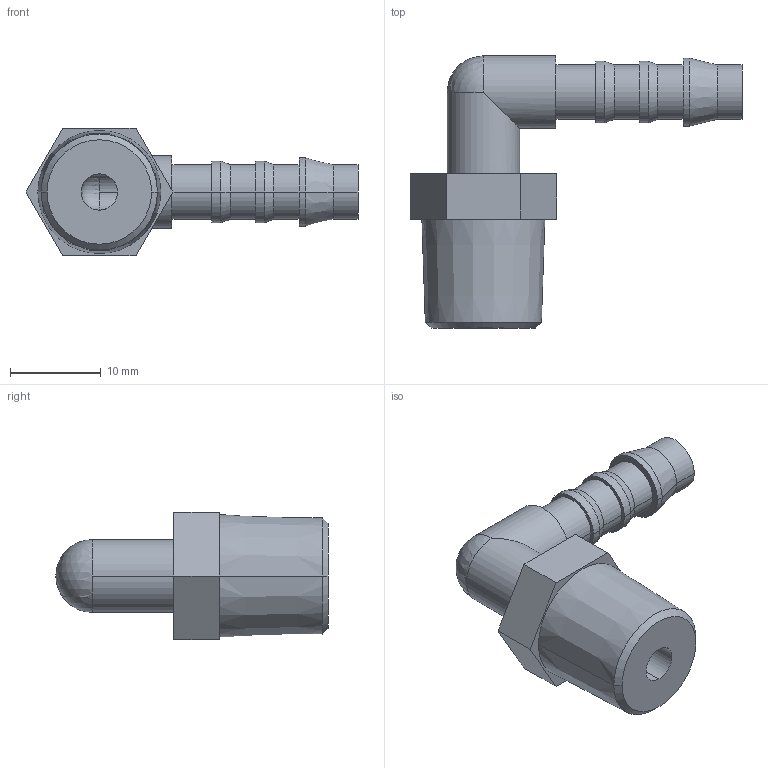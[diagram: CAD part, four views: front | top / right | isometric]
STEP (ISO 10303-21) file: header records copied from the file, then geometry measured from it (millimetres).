
FILE_DESCRIPTION((''),'2;1');
FILE_NAME('1823379007','2025-02-11T17:11:59',('GND7HC'),(''),'CREO PARAMETRIC BY PTC INC, 2023092','CREO PARAMETRIC BY PTC INC, 2023092','');
FILE_SCHEMA(('CONFIG_CONTROL_DESIGN','SHAPE_APPEARANCE_LAYERS_GROUPS'));
Length unit declared in the file: millimetre
Products named in the file (1): 1823379007
Bounding box: 36.58 x 30 x 14 mm (x, y, z)
Volume: 3264.2 mm3; surface area: 2558.3 mm2
Topology: 1 solids, 1 shells, 48 faces, 107 edges, 63 vertices
Faces by surface type: cylinder 22, plane 14, cone 10, sphere 2
Entity records: 1792 total; most frequent: CARTESIAN_POINT 290, DIRECTION 244, ORIENTED_EDGE 206, PRESENTATION_STYLE_ASSIGNMENT 109, STYLED_ITEM 109, CURVE_STYLE 103, EDGE_CURVE 103, AXIS2_PLACEMENT_3D 97
